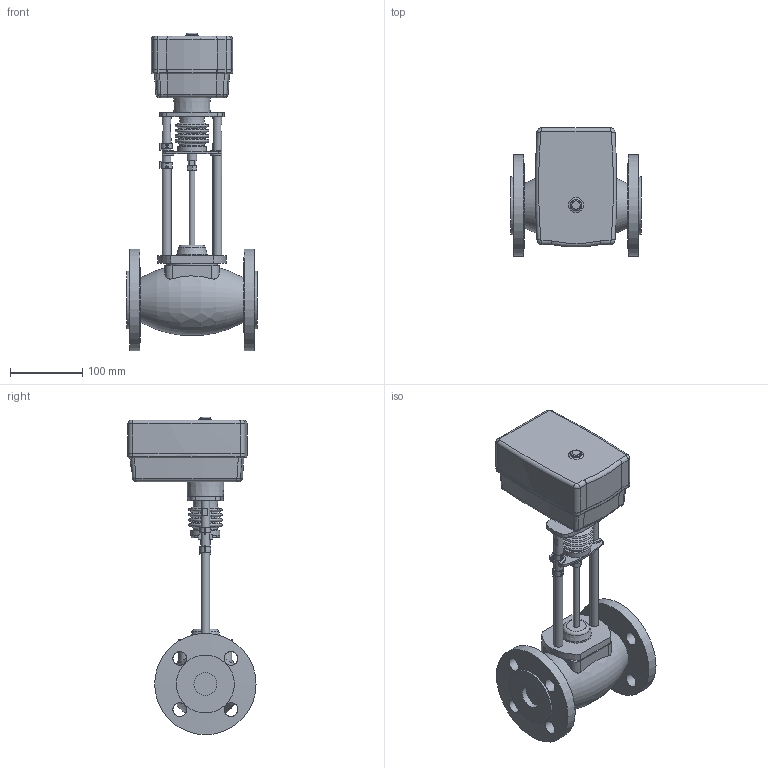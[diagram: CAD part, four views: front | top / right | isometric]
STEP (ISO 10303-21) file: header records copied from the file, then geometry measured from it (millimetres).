
FILE_DESCRIPTION(/* description */ ('Unknown'),/* implementation_level */ '2;1');
FILE_NAME(/* name */ 'Клапан TRV-P-032-101',/* time_stamp */ '2021-12-06T17:07:02+03:00',/* author */ ('Unknown'),/* organization */ ('Unknown'),/* preprocessor_version */ 'ST-DEVELOPER v16.7',/* originating_system */ 'DEX',/* authorisation */ $);
FILE_SCHEMA (('AUTOMOTIVE_DESIGN {1 0 10303 214 3 1 1}'));
Length unit declared in the file: millimetre
Products named in the file (1): 抔黽鳧 TRV-P-032-101
Bounding box: 180 x 176.96 x 438.4 mm (x, y, z)
Volume: 3046479.3 mm3; surface area: 243956.6 mm2
Topology: 1 solids, 1 shells, 301 faces, 773 edges, 493 vertices
Faces by surface type: plane 153, cylinder 79, torus 33, cone 26, bspline 6, sphere 4
Full cylindrical faces by diameter (mm): 8.2 x1, 12.002 x4, 13 x1, 15 x1, 19 x8, 31.8 x2, 33.4 x1, 33.972 x1, 40 x1, 42 x1, 69.5 x1, 80 x2, 140 x2
Entity records: 11224 total; most frequent: CARTESIAN_POINT 2116, DIRECTION 1478, ORIENTED_EDGE 1364, EDGE_CURVE 682, AXIS2_PLACEMENT_3D 570, VERTEX_POINT 457, EDGE_LOOP 399, FACE_BOUND 399
